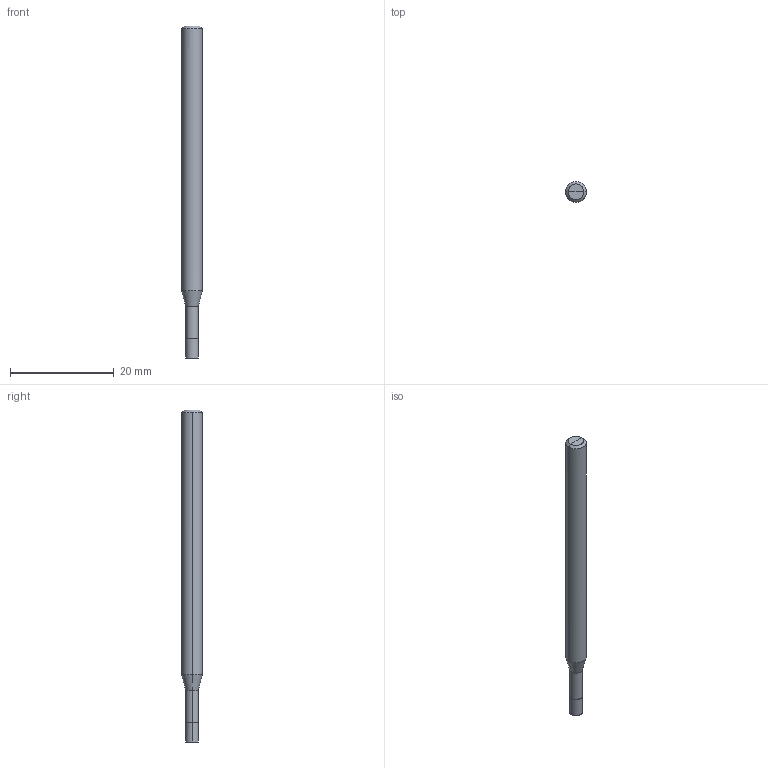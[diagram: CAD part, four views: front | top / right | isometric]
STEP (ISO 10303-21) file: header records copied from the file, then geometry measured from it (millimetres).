
FILE_DESCRIPTION(/* description */ (''),/* implementation_level */ '2;1');
FILE_NAME(/*name*/ '2001-2.5',/*time_stamp*/'2021-3-18T15:34:59',/*author*/ ('ISBE GmbH'),/*organization*/ ('ISBE GmbH'),/*preprocessor_version*/ 'STEP IO v1.0',/*originating_system*/ '',/*authorisation*/ '');
FILE_SCHEMA (('AUTOMOTIVE_DESIGN'));
Length unit declared in the file: millimetre
Products named in the file (1): Document
Bounding box: 4 x 3.99 x 64 mm (x, y, z)
Surface area: 772.7 mm2 (no closed solid volume)
Topology: 0 solids, 18 shells, 18 faces, 74 edges, 68 vertices
Faces by surface type: bspline 18
Entity records: 587 total; most frequent: CARTESIAN_POINT 262, VERTEX_POINT 64, EDGE_CURVE 64, ORIENTED_EDGE 64, EDGE_LOOP 18, FACE_OUTER_BOUND 18, ADVANCED_FACE 18, DIRECTION 16
